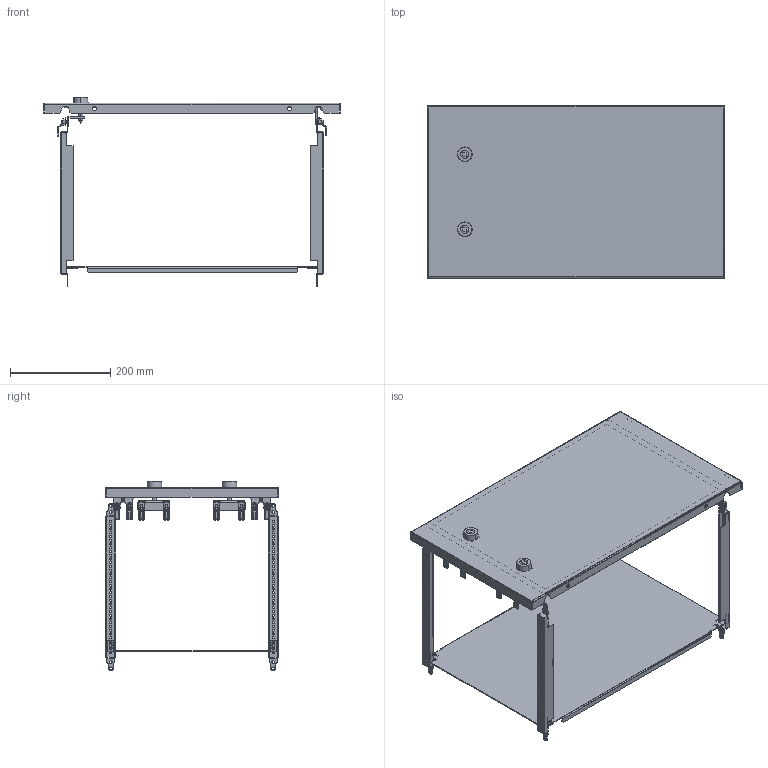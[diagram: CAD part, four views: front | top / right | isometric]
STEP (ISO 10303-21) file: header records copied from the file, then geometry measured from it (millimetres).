
FILE_DESCRIPTION(('CAx-IF Rec.Pracs.---Model Styling and Organization---1.2---2011-12-15','CAx-IF Rec.Pracs.---Geometric and Assembly Validation Properties---4.1---2014-06-16','CAx-IF Rec.Pracs.---PMI Polyline Presentation---2.0---2013-05-24'),'2;1');
FILE_NAME('R5PKEB0635.stp','2021-05-05T13:48:07+03:00',(''),(''),'STEP Interface 4.4 by CT CoreTechnologie','3D_Evolution4.4 by CT CoreTechnologie','');
FILE_SCHEMA(('AUTOMOTIVE_DESIGN { 1 0 10303 214 1 1 1 1 }'));
Length unit declared in the file: millimetre
Products named in the file (21): R5PKEB0635; RB.0586.00.00.0_-08; RB.0329.00.00.0_-00; RB.0348.00.00.0_-00; R5CPMEM_R5CPMEM6350; AC00C485; RB.0116.00.00.2_-00; M6 x 16-DIN 7991 ISR_stright; AC00C745; MS737-1-1(1); MS737-1-1 stop_fixed; MS737-1-1 Z_ ªàëâ; RB.0687.00.00.1_-00; M6 x 16-DIN 7991 ISR_thread; RB.0556.00.00.2 ÑÁ_-05; AC00C061_AC00C061; PF 7x14 R5PKEB_0350x0600; AC00C266; Ì6õ12-A5100231_straight; RB.0556.00.01.1_-05; MS737-1-1(2)
Assembly tree (45 placements, depth 4):
  R5PKEB0635
    RB.0586.00.00.0_-08
    RB.0329.00.00.0_-00  x4
    RB.0348.00.00.0_-00  x4
    R5CPMEM_R5CPMEM6350
      AC00C485  x8
      RB.0116.00.00.2_-00  x2
      M6 x 16-DIN 7991 ISR_stright  x4
      AC00C745  x2
      MS737-1-1(1)
        MS737-1-1 stop_fixed
        MS737-1-1 Z_ ªàëâ
      RB.0687.00.00.1_-00  x2
      M6 x 16-DIN 7991 ISR_thread  x4
      RB.0556.00.00.2 ÑÁ_-05
        AC00C061_AC00C061
        PF 7x14 R5PKEB_0350x0600
        AC00C266  x2
        Ì6õ12-A5100231_straight
        RB.0556.00.01.1_-05
      MS737-1-1(2)
        MS737-1-1 Z_ ªàëâ
        MS737-1-1 stop_fixed
Bounding box: 594 x 345 x 379.4 mm (x, y, z)
Surface area: 1103811 mm2 (no closed solid volume)
Topology: 0 solids, 81 shells, 2372 faces, 6044 edges, 3818 vertices
Faces by surface type: cylinder 1086, plane 976, bspline 310
Entity records: 29388 total; most frequent: CARTESIAN_POINT 8087, DIRECTION 4217, ORIENTED_EDGE 4128, EDGE_CURVE 2064, AXIS2_PLACEMENT_3D 1490, VERTEX_POINT 1318, VECTOR 1237, LINE 1237
